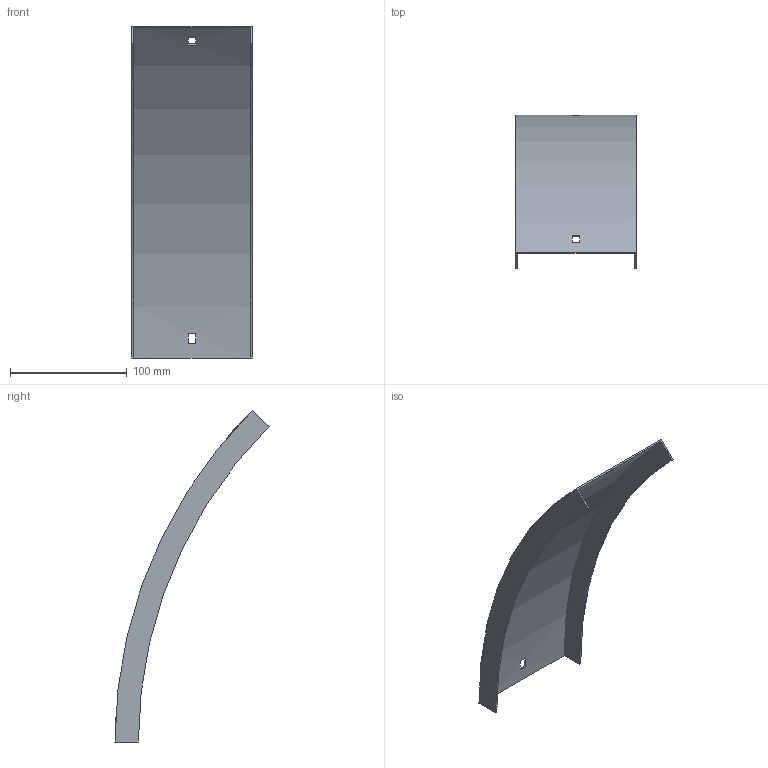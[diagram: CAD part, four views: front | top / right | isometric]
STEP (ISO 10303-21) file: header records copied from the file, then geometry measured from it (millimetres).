
FILE_DESCRIPTION (( 'STEP AP214' ), '1' );
FILE_NAME ('B2_34N3D100.step', '2025-02-21T10:36:20', ( '' ), ( '' ), 'SwSTEP 2.0', 'SolidWorks 2023', '' );
FILE_SCHEMA (( 'AUTOMOTIVE_DESIGN' ));
Length unit declared in the file: millimetre
Products named in the file (1): B2_34N3D100
Bounding box: 103 x 131.74 x 283.9 mm (x, y, z)
Volume: 65485.6 mm3; surface area: 88727.9 mm2
Topology: 1 solids, 1 shells, 18 faces, 48 edges, 32 vertices
Faces by surface type: plane 14, cylinder 4
Entity records: 599 total; most frequent: DIRECTION 102, CARTESIAN_POINT 99, ORIENTED_EDGE 96, EDGE_CURVE 48, AXIS2_PLACEMENT_3D 35, VERTEX_POINT 32, LINE 32, VECTOR 32
